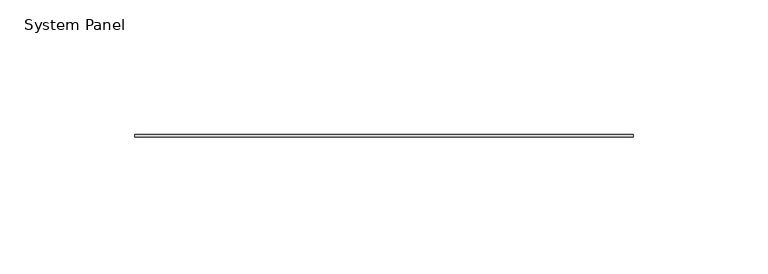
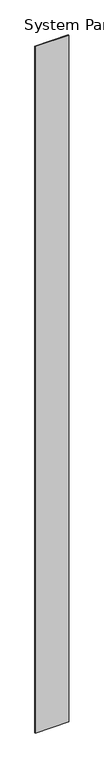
"""IFC4 building model written with IfcOpenShell, lengths in millimetres: plate geometry, System Panel : Stratco_Hiland_Tray."""

import ifcopenshell
import ifcopenshell.guid

model = None  # the IFC model being written
_history = None  # IfcOwnerHistory: only IFC2X3 demands one
_inside = {}  # id of a spatial element -> (the spatial element, [elements in it])
_under = {}  # id of a project, library or spatial element -> (it, [spatial elements below it])
_declared = {}  # id of a project -> (the project, [libraries it declares])
_typed = {}  # id of a type object -> (the type object, [elements of that type])
_made_of = {}  # id of a material, layer set ... -> (it, [elements and type objects made of it])


def new_model(schema):
    """Start an empty IFC model of exactly this schema.

    Asked for "IFC4X3", IfcOpenShell would pick the latest addendum, in which some entities
    have other attributes; the version numbers below select the first issue.
    IFC2X3 requires an IfcOwnerHistory on every rooted entity: one is made here for all.
    """
    global model, _history
    if schema == "IFC4X3":
        model = ifcopenshell.file(schema_version=(4, 3, 0, 0))
    else:
        model = ifcopenshell.file(schema=schema)
    _inside.clear()
    _under.clear()
    _declared.clear()
    _typed.clear()
    _made_of.clear()
    _history = None
    if model.schema == "IFC2X3":
        org = make("IfcOrganization", Name="unknown")
        user = make(
            "IfcPersonAndOrganization",
            ThePerson=make("IfcPerson", FamilyName="unknown"),
            TheOrganization=org,
        )
        app = make(
            "IfcApplication",
            ApplicationDeveloper=org,
            Version="unknown",
            ApplicationFullName="unknown",
            ApplicationIdentifier="unknown",
        )
        _history = make(
            "IfcOwnerHistory",
            OwningUser=user,
            OwningApplication=app,
            ChangeAction="ADDED",
            CreationDate=0,
        )
    return model


def make(cls, **values):
    """One entity of the class cls with the attributes given. An attribute that is None is left unset."""
    return model.create_entity(
        cls, **{name: value for name, value in values.items() if value is not None}
    )


def rooted(cls, **values):
    """An entity with a GlobalId (a new one), such as an element, a storey or a relation."""
    return make(cls, GlobalId=ifcopenshell.guid.new(), OwnerHistory=_history, **values)


def si_unit(unit_type, name, prefix=None):
    """IfcSIUnit, for example si_unit("LENGTHUNIT", "METRE", prefix="MILLI")."""
    return make("IfcSIUnit", UnitType=unit_type, Prefix=prefix, Name=name)


def assignment(units):
    """IfcUnitAssignment: the units of a project."""
    return None if units is None else make("IfcUnitAssignment", Units=units)


def point(xyz):
    """IfcCartesianPoint."""
    return None if xyz is None else make("IfcCartesianPoint", Coordinates=xyz)


def direction(xyz):
    """IfcDirection."""
    return None if xyz is None else make("IfcDirection", DirectionRatios=xyz)


def frame(location, z_axis=None, x_axis=None):
    """IfcAxis2Placement3D, a coordinate frame: its origin and axes. An axis left out is left unset."""
    return make(
        "IfcAxis2Placement3D",
        Location=point(location),
        Axis=direction(z_axis),
        RefDirection=direction(x_axis),
    )


def origin():
    """The frame at (0, 0, 0) with its axes left unset."""
    return frame((0.0, 0.0, 0.0))


def origin_with_axes():
    """The frame at (0, 0, 0) with the z axis (0, 0, 1) and the x axis (1, 0, 0) written out."""
    return frame((0.0, 0.0, 0.0), z_axis=(0.0, 0.0, 1.0), x_axis=(1.0, 0.0, 0.0))


def place(relative_to, where):
    """IfcLocalPlacement: puts the frame where relative to a parent placement (None: the world)."""
    return make(
        "IfcLocalPlacement", PlacementRelTo=relative_to, RelativePlacement=where
    )


def context(
    kind, dimensions, precision=None, world=None, true_north=None, identifier=None
):
    """IfcGeometricRepresentationContext, for example the 3D "Model" context."""
    return make(
        "IfcGeometricRepresentationContext",
        ContextIdentifier=identifier,
        ContextType=kind,
        CoordinateSpaceDimension=dimensions,
        Precision=precision,
        WorldCoordinateSystem=world,
        TrueNorth=true_north,
    )


def project(units=None, contexts=None):
    """IfcProject with its units and contexts."""
    return rooted(
        "IfcProject",
        Name="project",
        RepresentationContexts=contexts,
        UnitsInContext=assignment(units),
    )


def spatial(cls, under=None, at=None, **own):
    """A site, building, storey or space (cls), placed at a placement, below another one or the project."""
    s = rooted(cls, ObjectPlacement=at, **own)
    if under is not None:
        _under.setdefault(under.id(), (under, []))[1].append(s)
    return s


def polyline(points):
    """IfcPolyline through the points."""
    return make("IfcPolyline", Points=[point(p) for p in points])


def outline(outer, holes=None, kind="AREA"):
    """IfcArbitraryClosedProfileDef: a profile drawn as a closed curve; with holes, ...WithVoids."""
    if holes is None:
        return make("IfcArbitraryClosedProfileDef", ProfileType=kind, OuterCurve=outer)
    return make(
        "IfcArbitraryProfileDefWithVoids",
        ProfileType=kind,
        OuterCurve=outer,
        InnerCurves=holes,
    )


def extrude(swept, where, along, depth):
    """IfcExtrudedAreaSolid: the profile swept, set in the frame where, extruded along a direction by depth."""
    return make(
        "IfcExtrudedAreaSolid",
        SweptArea=swept,
        Position=where,
        ExtrudedDirection=direction(along),
        Depth=depth,
    )


def shape(context_of_items, identifier, shape_type, items):
    """IfcShapeRepresentation: the items that make up one representation, for example the "Body"."""
    return make(
        "IfcShapeRepresentation",
        ContextOfItems=context_of_items,
        RepresentationIdentifier=identifier,
        RepresentationType=shape_type,
        Items=items,
    )


def source(mapping_origin, context_of_items, identifier, shape_type, items):
    """IfcRepresentationMap: a shape defined once, which mapped items show again and again."""
    return make(
        "IfcRepresentationMap",
        MappingOrigin=mapping_origin,
        MappedRepresentation=shape(context_of_items, identifier, shape_type, items),
    )


def transform(
    local_origin,
    x_axis=None,
    y_axis=None,
    z_axis=None,
    scale=None,
    scale2=None,
    scale3=None,
    uniform=True,
):
    """IfcCartesianTransformationOperator3D, or its non-uniform kind. x_axis, y_axis, z_axis: its Axis1, 2, 3."""
    if uniform:
        return make(
            "IfcCartesianTransformationOperator3D",
            Axis1=direction(x_axis),
            Axis2=direction(y_axis),
            LocalOrigin=point(local_origin),
            Scale=scale,
            Axis3=direction(z_axis),
        )
    return make(
        "IfcCartesianTransformationOperator3DnonUniform",
        Axis1=direction(x_axis),
        Axis2=direction(y_axis),
        LocalOrigin=point(local_origin),
        Scale=scale,
        Axis3=direction(z_axis),
        Scale2=scale2,
        Scale3=scale3,
    )


def mapped(mapping_source, mapping_target):
    """IfcMappedItem: shows the shape of a source again, moved by a transform."""
    return make(
        "IfcMappedItem", MappingSource=mapping_source, MappingTarget=mapping_target
    )


def made_of(thing, what):
    """Note that an element or type object is made of a material, layer set ...; save() writes the relation."""
    if what is not None:
        _made_of.setdefault(what.id(), (what, []))[1].append(thing)
    return thing


def element(
    cls,
    number,
    at=None,
    inside=None,
    cuts=None,
    type_object=None,
    material=None,
    context=None,
    identifier="Body",
    shape_type=None,
    held_by="IfcProductDefinitionShape",
    body=None,
    shapes=None,
    **own,
):
    """One element of the class cls, such as IfcWall. Its Tag is "e" and its number.

    at: its placement. inside: the storey or other place that contains it. cuts: it is an
    opening in that element (IfcRelVoidsElement). A single representation is given by context,
    identifier, shape_type and body (its items); several are given by shapes. held_by: the class
    of the entity that holds the representations. save() writes the other relations.
    """
    e = rooted(cls, Tag="e%d" % number, ObjectPlacement=at, **own)
    if body is not None:
        shapes = [shape(context, identifier, shape_type, body)]
    if shapes is not None:
        e.Representation = make(held_by, Representations=shapes)
    if inside is not None:
        _inside.setdefault(inside.id(), (inside, []))[1].append(e)
    if cuts is not None:
        rooted(
            "IfcRelVoidsElement", RelatingBuildingElement=cuts, RelatedOpeningElement=e
        )
    if type_object is not None:
        _typed.setdefault(type_object.id(), (type_object, []))[1].append(e)
    return made_of(e, material)


def aggregate(whole, parts):
    """IfcRelAggregates: a whole, such as a stair, and the parts it consists of."""
    return rooted("IfcRelAggregates", RelatingObject=whole, RelatedObjects=parts)


def save(model, path):
    """Write the relations noted so far, then the file.

    IfcRelAggregates (storeys below a building ...), IfcRelContainedInSpatialStructure (elements
    in a storey), IfcRelDefinesByType, IfcRelAssociatesMaterial and IfcRelDeclares: one each for
    every whole, place, type object, material and project.
    """
    for whole, parts in _under.values():
        aggregate(whole, parts)
    for where, things in _inside.values():
        rooted(
            "IfcRelContainedInSpatialStructure",
            RelatedElements=things,
            RelatingStructure=where,
        )
    for kind, things in _typed.values():
        rooted("IfcRelDefinesByType", RelatedObjects=things, RelatingType=kind)
    for what, things in _made_of.values():
        rooted("IfcRelAssociatesMaterial", RelatedObjects=things, RelatingMaterial=what)
    for by, libraries in _declared.values():
        rooted("IfcRelDeclares", RelatingContext=by, RelatedDefinitions=libraries)
    model.write(path)


def system_panel_4b05f85e(model_context):
    return source(origin(), model_context, "Body", "SweptSolid", [
        extrude(outline(polyline([(92.5000002, 2.5), (-92.5000002, 2.5), (-92.5000002, 3.5), (92.5000002, 3.5), (92.5000002, 2.5)])), origin_with_axes(), (0.0, 0.0, 1.0), 4000.0),
    ])


if __name__ == "__main__":
    model = new_model("IFC4")
    model_context = context("Model", 3, world=origin())
    ifc_project = project(units=[si_unit("LENGTHUNIT", "METRE", prefix="MILLI")], contexts=[model_context])
    site = spatial("IfcSite", under=ifc_project)
    building = spatial("IfcBuilding", under=site)
    placement = place(None, origin())
    system_panel_shape = system_panel_4b05f85e(model_context)
    element("IfcPlate", 1, ObjectType="System Panel : Stratco_Hiland_Tray", at=placement, inside=building, context=model_context, shape_type="MappedRepresentation", body=[
        mapped(system_panel_shape, transform((0.0, 0.0, 0.0), x_axis=(1.0, 0.0, 0.0), y_axis=(0.0, 1.0, 0.0), z_axis=(0.0, 0.0, 1.0))),
    ])
    save(model, "model.ifc")
